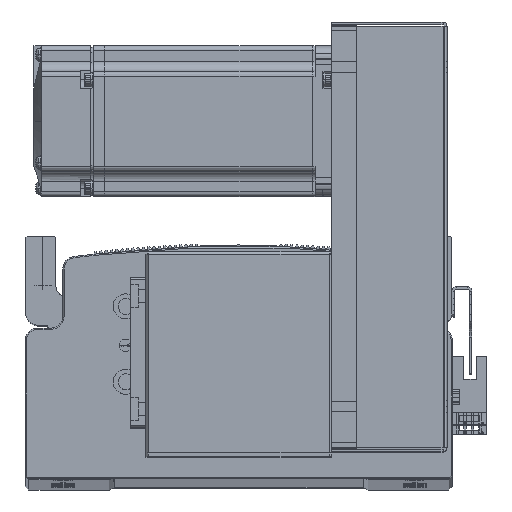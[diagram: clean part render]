
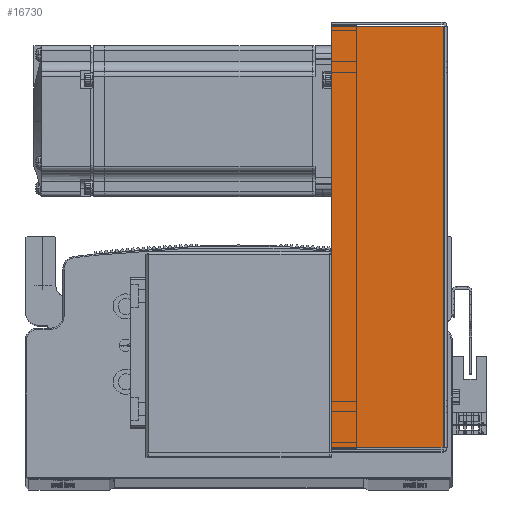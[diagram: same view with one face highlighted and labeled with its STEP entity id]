
A CAD part, top view. The second image highlights one B-rep face of the part: STEP entity #16730.
In plain terms, the highlighted planar face has unit normal (0, 0, 1).
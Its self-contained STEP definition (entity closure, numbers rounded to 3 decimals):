
#11972 = EDGE_CURVE ( 'NONE', #57786, #57859, #28517, .T. ) ;
#12019 = EDGE_CURVE ( 'NONE', #57859, #57772, #28492, .T. ) ;
#12096 = EDGE_CURVE ( 'NONE', #57786, #57834, #28614, .T. ) ;
#12131 = EDGE_CURVE ( 'NONE', #57834, #57772, #28672, .T. ) ;
#15374 = CARTESIAN_POINT ( 'NONE',  ( -83.793, 0., 40.5 ) ) ;
#16730 = ADVANCED_FACE ( 'NONE', ( #69940 ), #63711, .F. ) ;
#28466 = VECTOR ( 'NONE', #83510, 1000. ) ;
#28492 = LINE ( 'NONE', #15374, #28466 ) ;
#28517 = LINE ( 'NONE', #75770, #28519 ) ;
#28519 = VECTOR ( 'NONE', #75777, 1000. ) ;
#28581 = VECTOR ( 'NONE', #71314, 1000. ) ;
#28614 = LINE ( 'NONE', #71266, #28629 ) ;
#28629 = VECTOR ( 'NONE', #71268, 1000. ) ;
#28672 = LINE ( 'NONE', #71317, #28581 ) ;
#51956 = CARTESIAN_POINT ( 'NONE',  ( 83.793, 0.737, 40.5 ) ) ;
#52059 = CARTESIAN_POINT ( 'NONE',  ( -83.793, 45., 40.5 ) ) ;
#52063 = CARTESIAN_POINT ( 'NONE',  ( -83.793, 0.737, 40.5 ) ) ;
#52167 = CARTESIAN_POINT ( 'NONE',  ( 83.793, 45., 40.5 ) ) ;
#57772 = VERTEX_POINT ( 'NONE', #52059 ) ;
#57786 = VERTEX_POINT ( 'NONE', #51956 ) ;
#57834 = VERTEX_POINT ( 'NONE', #52167 ) ;
#57859 = VERTEX_POINT ( 'NONE', #52063 ) ;
#63703 = DIRECTION ( 'NONE',  ( 0., 0., -1. ) ) ;
#63711 = PLANE ( 'NONE',  #87989 ) ;
#63712 = CARTESIAN_POINT ( 'NONE',  ( 0., 0., 40.5 ) ) ;
#63730 = DIRECTION ( 'NONE',  ( -1., 0., 0. ) ) ;
#69940 = FACE_OUTER_BOUND ( 'NONE', #87150, .T. ) ;
#71266 = CARTESIAN_POINT ( 'NONE',  ( 83.793, 0., 40.5 ) ) ;
#71268 = DIRECTION ( 'NONE',  ( 0., 1., 0. ) ) ;
#71314 = DIRECTION ( 'NONE',  ( -1., 0., 0. ) ) ;
#71317 = CARTESIAN_POINT ( 'NONE',  ( -84.5, 45., 40.5 ) ) ;
#75770 = CARTESIAN_POINT ( 'NONE',  ( 0., 0.737, 40.5 ) ) ;
#75777 = DIRECTION ( 'NONE',  ( -1., 0., 0. ) ) ;
#77456 = ORIENTED_EDGE ( 'NONE', *, *, #12019, .F. ) ;
#77474 = ORIENTED_EDGE ( 'NONE', *, *, #12131, .T. ) ;
#77505 = ORIENTED_EDGE ( 'NONE', *, *, #11972, .F. ) ;
#77541 = ORIENTED_EDGE ( 'NONE', *, *, #12096, .T. ) ;
#83510 = DIRECTION ( 'NONE',  ( 0., 1., 0. ) ) ;
#87150 = EDGE_LOOP ( 'NONE', ( #77505, #77541, #77474, #77456 ) ) ;
#87989 = AXIS2_PLACEMENT_3D ( 'NONE', #63712, #63703, #63730 ) ;
